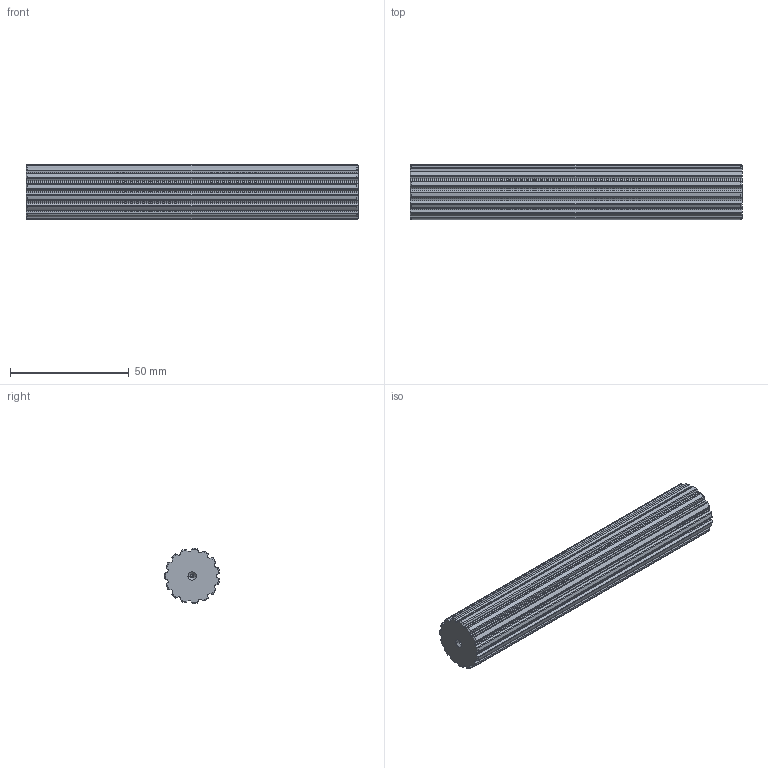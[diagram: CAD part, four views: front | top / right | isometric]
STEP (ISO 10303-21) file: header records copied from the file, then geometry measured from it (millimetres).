
FILE_DESCRIPTION(('STEP AP203'),'1');
FILE_NAME('bart_15.stp','2022-04-12T13:53:46',('TraceParts'),('TraceParts S.A.'),'Spatial InterOp 3D',' ',' ');
FILE_SCHEMA(('CONFIG_CONTROL_DESIGN'));
Length unit declared in the file: millimetre
Products named in the file (1): 1
Bounding box: 140 x 23.26 x 23.36 mm (x, y, z)
Volume: 55003.4 mm3; surface area: 13277.7 mm2
Topology: 1 solids, 1 shells, 166 faces, 484 edges, 318 vertices
Faces by surface type: cylinder 94, cone 40, plane 32
Entity records: 5786 total; most frequent: CARTESIAN_POINT 1505, ORIENTED_EDGE 960, DIRECTION 860, EDGE_CURVE 480, AXIS2_PLACEMENT_3D 333, VERTEX_POINT 318, LINE 194, VECTOR 194
